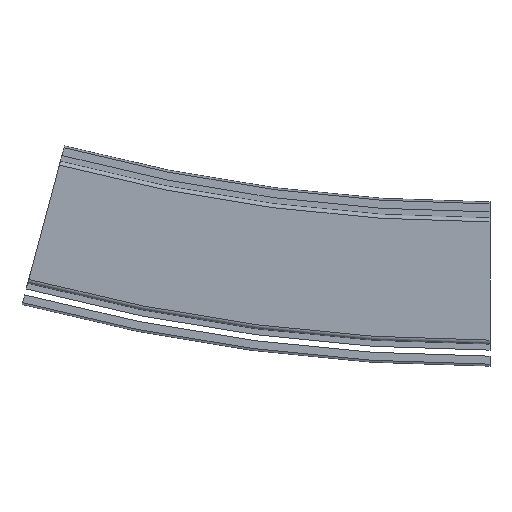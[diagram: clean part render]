
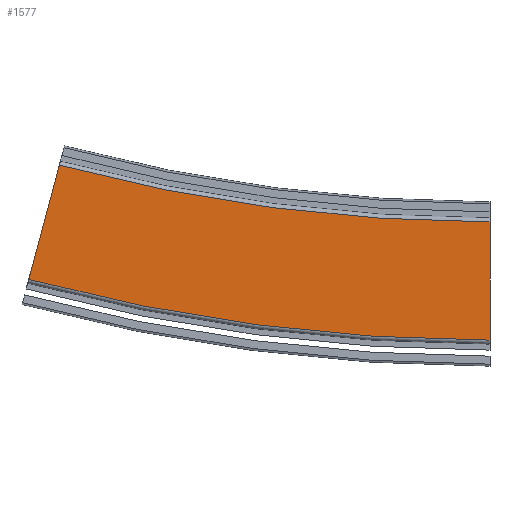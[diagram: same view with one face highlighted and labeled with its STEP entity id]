
A CAD part, left-side view. The second image highlights one B-rep face of the part: STEP entity #1577.
In plain terms, the highlighted planar face has unit normal (-1, 0, 0).
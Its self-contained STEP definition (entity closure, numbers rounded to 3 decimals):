
#126=PLANE('',#1712);
#200=FACE_OUTER_BOUND('',#292,.T.);
#292=EDGE_LOOP('',(#1300,#1301,#1302,#1303));
#360=CIRCLE('',#1711,830.5);
#361=CIRCLE('',#1713,889.5);
#464=LINE('',#7170,#590);
#465=LINE('',#7172,#591);
#590=VECTOR('',#2010,10.);
#591=VECTOR('',#2011,10.);
#750=VERTEX_POINT('',#7163);
#751=VERTEX_POINT('',#7165);
#752=VERTEX_POINT('',#7169);
#753=VERTEX_POINT('',#7171);
#950=EDGE_CURVE('',#750,#751,#360,.T.);
#951=EDGE_CURVE('',#752,#750,#464,.T.);
#952=EDGE_CURVE('',#753,#751,#465,.T.);
#953=EDGE_CURVE('',#752,#753,#361,.T.);
#1300=ORIENTED_EDGE('',*,*,#951,.T.);
#1301=ORIENTED_EDGE('',*,*,#950,.T.);
#1302=ORIENTED_EDGE('',*,*,#952,.F.);
#1303=ORIENTED_EDGE('',*,*,#953,.F.);
#1577=ADVANCED_FACE('',(#200),#126,.T.);
#1711=AXIS2_PLACEMENT_3D('',#7167,#2006,#2007);
#1712=AXIS2_PLACEMENT_3D('',#7168,#2008,#2009);
#1713=AXIS2_PLACEMENT_3D('',#7173,#2012,#2013);
#2006=DIRECTION('center_axis',(1.,0.,0.));
#2007=DIRECTION('ref_axis',(0.,0.,
-1.));
#2008=DIRECTION('center_axis',(-1.,0.,0.));
#2009=DIRECTION('ref_axis',(0.,0.,1.));
#2010=DIRECTION('',(0.,0.,1.));
#2011=DIRECTION('',(0.,-0.259,0.966));
#2012=DIRECTION('center_axis',(1.,0.,0.));
#2013=DIRECTION('ref_axis',(0.,0.,
-1.));
#7163=CARTESIAN_POINT('',(-43.,0.,29.5));
#7165=CARTESIAN_POINT('',(-43.,214.949,57.799));
#7167=CARTESIAN_POINT('Origin',(-43.,0.,
860.));
#7168=CARTESIAN_POINT('Origin',(-43.,0.,-29.5));
#7169=CARTESIAN_POINT('',(-43.,0.,-29.5));
#7170=CARTESIAN_POINT('',(-43.,0.,-29.5));
#7171=CARTESIAN_POINT('',(-43.,230.22,0.809));
#7172=CARTESIAN_POINT('',(-43.,230.22,0.809));
#7173=CARTESIAN_POINT('Origin',(-43.,0.,860.));
